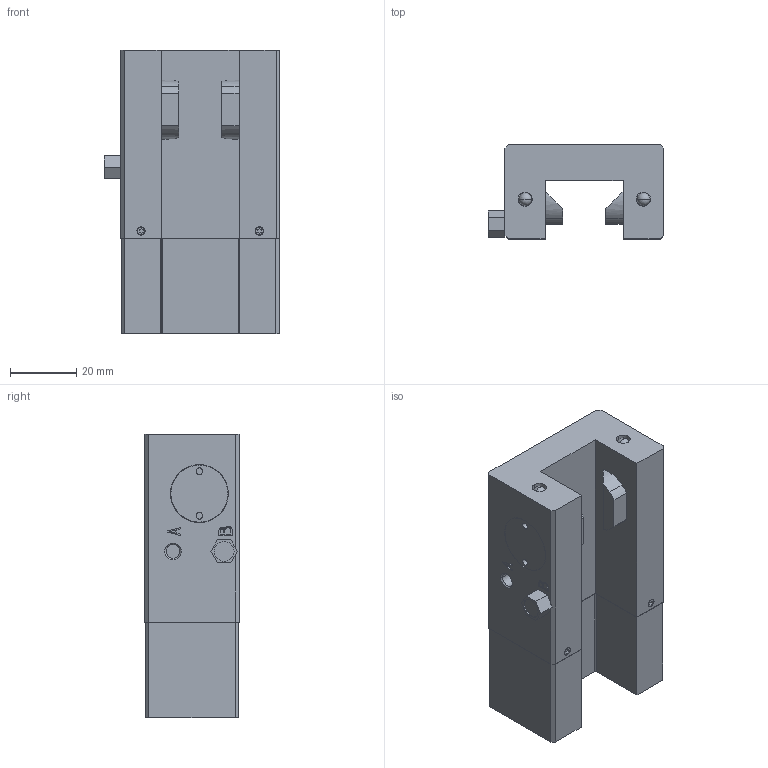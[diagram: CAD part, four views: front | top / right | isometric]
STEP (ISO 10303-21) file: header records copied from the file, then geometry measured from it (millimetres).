
FILE_DESCRIPTION( ( '' ), '1' );
FILE_NAME( 'E:/04 嬴檜蠱滌/0404 ZIMMER/040414 ZIMMER CAD download/LKPS/LKPS2504FS2---.stp', '2020-04-16T09:47:23', ( '' ), ( '' ), ' ', ' ', ' ' );
FILE_SCHEMA( ( 'automotive_design' ) );
Length unit declared in the file: millimetre
Products named in the file (1): 1
Bounding box: 53 x 28.5 x 85.9 mm (x, y, z)
Volume: 81244.8 mm3; surface area: 20140.8 mm2
Topology: 1 solids, 2 shells, 291 faces, 688 edges, 452 vertices
Faces by surface type: plane 185, cylinder 82, cone 16, sphere 4, torus 4
Entity records: 16380 total; most frequent: DIRECTION 1476, STYLED_ITEM 1428, PRESENTATION_STYLE_ASSIGNMENT 1428, CARTESIAN_POINT 1428, COLOUR_RGB 1428, ORIENTED_EDGE 1368, EDGE_CURVE 684, CURVE_STYLE 684
